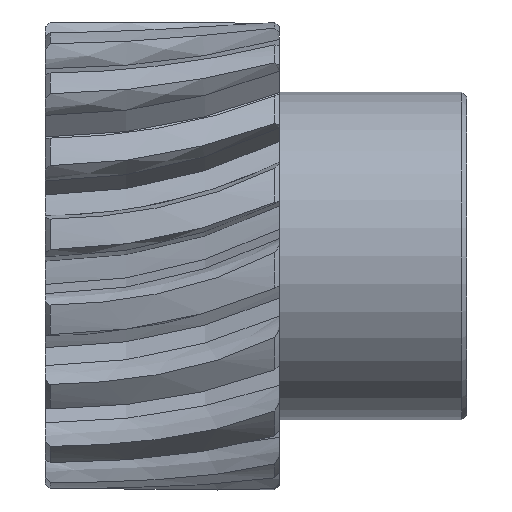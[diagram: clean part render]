
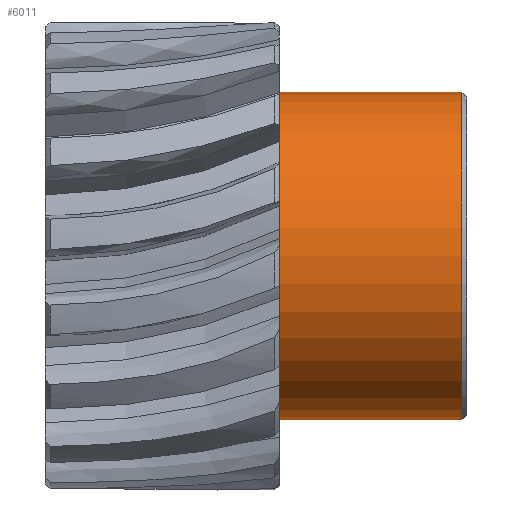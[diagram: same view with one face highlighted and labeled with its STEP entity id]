
A CAD part, front view. The second image highlights one B-rep face of the part: STEP entity #6011.
In plain terms, the highlighted cylindrical face has radius 17.5 mm (diameter 35 mm), a full revolution.
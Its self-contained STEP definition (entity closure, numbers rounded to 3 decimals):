
#31=CYLINDRICAL_SURFACE('',#6445,17.5);
#391=CIRCLE('',#6443,17.5);
#393=CIRCLE('',#6446,17.5);
#638=FACE_BOUND('',#1291,.T.);
#955=FACE_OUTER_BOUND('',#1290,.T.);
#1290=EDGE_LOOP('',(#5442));
#1291=EDGE_LOOP('',(#5443));
#2849=VERTEX_POINT('',#11289);
#2851=VERTEX_POINT('',#11294);
#3749=EDGE_CURVE('',#2849,#2849,#391,.T.);
#3751=EDGE_CURVE('',#2851,#2851,#393,.T.);
#5442=ORIENTED_EDGE('',*,*,#3751,.F.);
#5443=ORIENTED_EDGE('',*,*,#3749,.F.);
#6011=ADVANCED_FACE('',(#955,#638),#31,.T.);
#6443=AXIS2_PLACEMENT_3D('',#11290,#7780,#7781);
#6445=AXIS2_PLACEMENT_3D('',#11293,#7784,#7785);
#6446=AXIS2_PLACEMENT_3D('',#11295,#7786,#7787);
#7780=DIRECTION('center_axis',(1.,0.,0.));
#7781=DIRECTION('ref_axis',(0.,0.,1.));
#7784=DIRECTION('center_axis',(1.,0.,0.));
#7785=DIRECTION('ref_axis',(0.,0.,1.));
#7786=DIRECTION('center_axis',(-1.,0.,0.));
#7787=DIRECTION('ref_axis',(0.,0.,1.));
#11289=CARTESIAN_POINT('',(44.5,0.,-17.5));
#11290=CARTESIAN_POINT('Origin',(44.5,0.,0.));
#11293=CARTESIAN_POINT('Origin',(25.,0.,0.));
#11294=CARTESIAN_POINT('',(25.,0.,-17.5));
#11295=CARTESIAN_POINT('Origin',(25.,0.,0.));
